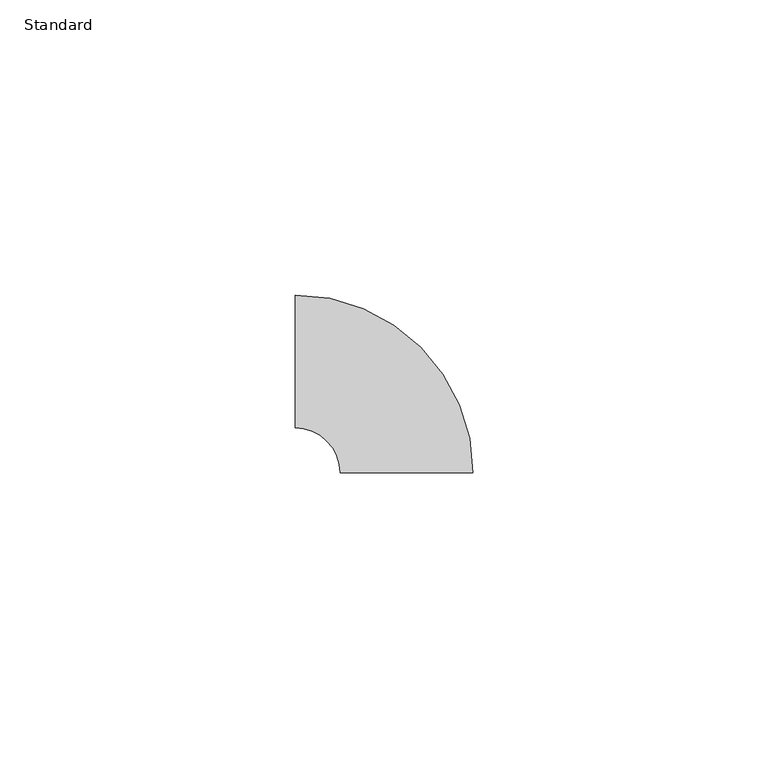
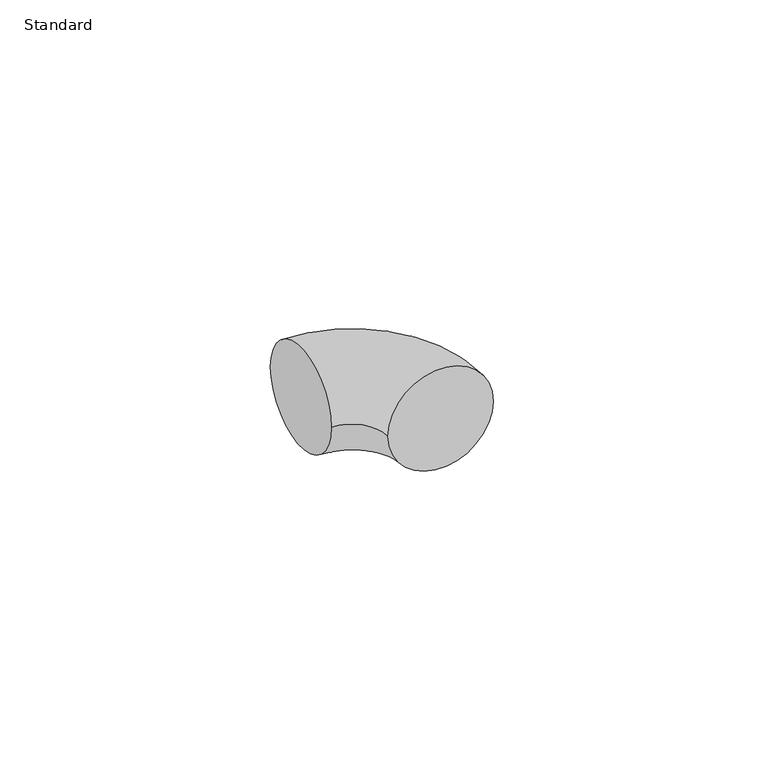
"""IFC4 building model written with IfcOpenShell, lengths in millimetres: pipe fitting geometry, Coude - Générique1 : Standard."""

from ifc_helpers import new_model, si_unit, point, frame, origin, place, context, project, spatial, circle_curve, ellipse_curve, trimmed, source, transform, mapped, element, save
from ifc_brep_helpers import plane_surface, revolved_surface, advanced_brep


def standard_7de1e32a(model_context):
    return source(origin(), model_context, "Body", "AdvancedBrep", [
        advanced_brep(
        [(-18.9117187, 11.25, 0.0), (-18.9117187, -11.25, 0.0), (11.25, -18.9117187, 0.0), (-11.25, -18.9117187, 0.0)],
        [
            (0, 1, circle_curve(frame((-18.9117187, 0.0, 0.0), z_axis=(-1.0, 0.0, 0.0), x_axis=(0.0, -1.0, 0.0)), 11.25)),
            (1, 0, circle_curve(frame((-18.9117187, 0.0, 0.0), z_axis=(-1.0, 0.0, 0.0), x_axis=(0.0, -1.0, 0.0)), 11.25)),
            (2, 3, circle_curve(frame((0.0, -18.9117187, 0.0), z_axis=(0.0, -1.0, 0.0), x_axis=(-1.0, 0.0, 0.0)), 11.25)),
            (3, 2, circle_curve(frame((0.0, -18.9117187, 0.0), z_axis=(0.0, -1.0, 0.0), x_axis=(-1.0, 0.0, 0.0)), 11.25)),
            (2, 0, circle_curve(frame((-18.9117187, -18.9117187, 0.0), z_axis=(0.0, 0.0, 1.0), x_axis=(0.0, 1.0, 0.0)), 30.1617188)),
            (1, 3, circle_curve(frame((-18.9117187, -18.9117187, 0.0), z_axis=(0.0, 0.0, -1.0), x_axis=(0.0, 1.0, 0.0)), 7.6617188)),
        ],
        [
            plane_surface(frame((-18.9117187, 0.0, 0.0), z_axis=(-1.0, 0.0, 0.0), x_axis=(0.0, 0.0, 1.0))),
            plane_surface(frame((0.0, -18.9117187, 0.0), z_axis=(0.0, -1.0, 0.0), x_axis=(0.0, 0.0, 1.0))),
            revolved_surface(trimmed(ellipse_curve(frame((-18.9117187, 0.0, 0.0), z_axis=(1.0, 0.0, 0.0), x_axis=(0.0, -1.0, 0.0)), 11.25, 11.25), [point((-18.9117187, 11.25, 0.0))], [point((-18.9117187, -11.25, 0.0))], True, "CARTESIAN"), (-18.9117187, -18.9117187, 0.0), (0.0, 0.0, 1.0)),
            revolved_surface(trimmed(ellipse_curve(frame((-18.9117187, 0.0, 0.0), z_axis=(1.0, 0.0, 0.0), x_axis=(0.0, -1.0, 0.0)), 11.25, 11.25), [point((-18.9117187, -11.25, 0.0))], [point((-18.9117187, 11.25, 0.0))], True, "CARTESIAN"), (-18.9117187, -18.9117187, 0.0), (0.0, 0.0, 1.0)),
        ],
        [
            (0, [[1, 2]]),
            (1, [[3, 4]]),
            (2, [[-3, 5, -2, 6]]),
            (3, [[-4, -6, -1, -5]]),
        ],
    ),
    ])


if __name__ == "__main__":
    model = new_model("IFC4")
    model_context = context("Model", 3, world=origin())
    ifc_project = project(units=[si_unit("LENGTHUNIT", "METRE", prefix="MILLI")], contexts=[model_context])
    site = spatial("IfcSite", under=ifc_project)
    building = spatial("IfcBuilding", under=site)
    placement = place(None, origin())
    standard_shape = standard_7de1e32a(model_context)
    element("IfcPipeFitting", 1, ObjectType="Coude - Générique1 : Standard", at=placement, inside=building, context=model_context, shape_type="MappedRepresentation", body=[
        mapped(standard_shape, transform((0.0, 0.0, 0.0), x_axis=(1.0, 0.0, 0.0), y_axis=(0.0, 1.0, 0.0), z_axis=(0.0, 0.0, 1.0))),
    ])
    save(model, "model.ifc")
